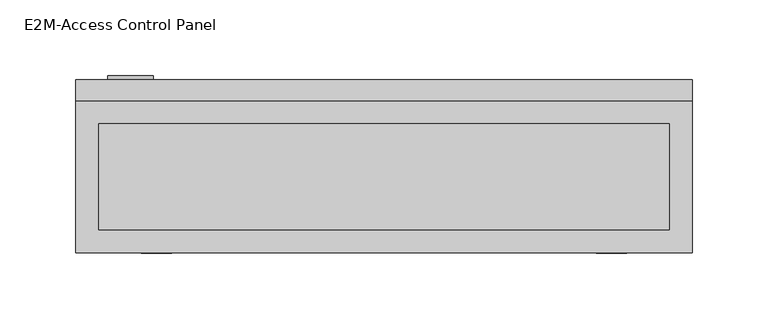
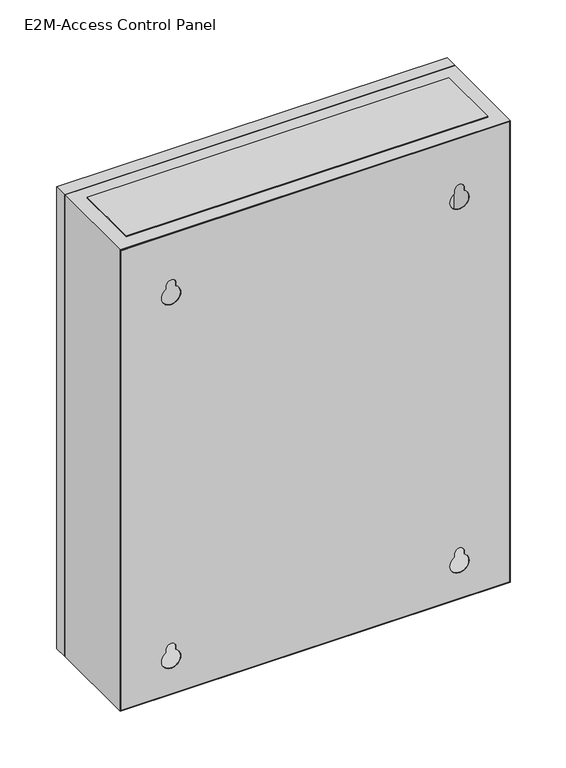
"""IFC4 building model written with IfcOpenShell, lengths in millimetres: proxy geometry, E2M_Access_Control_Panel_Wallmount_with_3inch_Strut_BIM_Model : E2M-Access Control Panel."""

from ifc_helpers import new_model, si_unit, point, frame, frame_2d, origin, place, context, project, spatial, polyline, circle_curve, trimmed, segment, composite_curve, outline, extrude, source, transform, mapped, element, save


def e2m_access_control_panel_7de66e6e(model_context):
    return source(origin(), model_context, "Body", "SweptSolid", [
        extrude(outline(polyline([(188.0, 411.2), (188.0, 341.2), (-188.0, 341.2), (-188.0, 411.2), (188.0, 411.2)])), frame((0.0, 0.0, 1090.267542), z_axis=(0.0, 0.0, 1.0), x_axis=(1.0, 0.0, 0.0)), (0.0, 0.0, 1.0), 1.0),
        extrude(outline(polyline([(188.0, 411.2), (188.0, 341.2), (-188.0, 341.2), (-188.0, 411.2), (188.0, 411.2)])), frame((0.0, 0.0, 1599.1733261), z_axis=(0.0, 0.0, 1.0), x_axis=(1.0, 0.0, 0.0)), (0.0, 0.0, 1.0), 1.0),
        extrude(outline(composite_curve([segment(trimmed(circle_curve(frame_2d((1432.2477718, -167.0)), 15.0), [point((1432.2477718, -182.0))], [point((1432.2477718, -152.0))], False, "CARTESIAN"), True, "CONTINUOUS"), segment(trimmed(circle_curve(frame_2d((1432.2477718, -167.0)), 15.0), [point((1432.2477718, -152.0))], [point((1432.2477718, -182.0))], False, "CARTESIAN"), True, "CONTINUOUS")], self_intersect=False), holes=[composite_curve([segment(trimmed(circle_curve(frame_2d((1432.2477718, -167.0)), 10.0), [point((1432.2477718, -177.0))], [point((1432.2477718, -157.0))], True, "CARTESIAN"), True, "CONTINUOUS"), segment(trimmed(circle_curve(frame_2d((1432.2477718, -167.0)), 10.0), [point((1432.2477718, -157.0))], [point((1432.2477718, -177.0))], True, "CARTESIAN"), True, "CONTINUOUS")], self_intersect=False)]), frame((0.0, 440.2, 0.0), z_axis=(0.0, 1.0, 0.0), x_axis=(0.0, 0.0, 1.0)), (0.0, 0.0, 1.0), 2.4582379),
        extrude(outline(composite_curve([segment(trimmed(circle_curve(frame_2d((1432.2477718, -167.0)), 5.0), [point((1432.2477718, -172.0))], [point((1432.2477718, -162.0))], False, "CARTESIAN"), True, "CONTINUOUS"), segment(trimmed(circle_curve(frame_2d((1432.2477718, -167.0)), 5.0), [point((1432.2477718, -162.0))], [point((1432.2477718, -172.0))], False, "CARTESIAN"), True, "CONTINUOUS")], self_intersect=False)), frame((0.0, 440.2, 0.0), z_axis=(0.0, 1.0, 0.0), x_axis=(0.0, 0.0, 1.0)), (0.0, 0.0, 1.0), 2.4582379),
        extrude(outline(polyline([(1598.1733261, -202.0), (1092.1733261, -202.0), (1092.1733261, 202.0), (1598.1733261, 202.0), (1598.1733261, -202.0)]), holes=[composite_curve([segment(trimmed(circle_curve(frame_2d((1542.628956, -150.0)), 5.0), [point((1542.628956, -155.0))], [point((1542.628956, -145.0))], True, "CARTESIAN"), True, "CONTINUOUS"), segment(polyline([(1542.628956, -145.0), (1539.3330615, -145.0)]), True, "CONTINUOUS"), segment(trimmed(circle_curve(frame_2d((1530.6728075, -150.0)), 10.0), [point((1539.3330615, -145.0))], [point((1539.3330615, -155.0))], True, "CARTESIAN"), True, "CONTINUOUS"), segment(polyline([(1539.3330615, -155.0), (1542.628956, -155.0)]), True, "CONTINUOUS")], self_intersect=False), composite_curve([segment(trimmed(circle_curve(frame_2d((1542.628956, 150.0)), 5.0), [point((1542.628956, 145.0))], [point((1542.628956, 155.0))], True, "CARTESIAN"), True, "CONTINUOUS"), segment(polyline([(1542.628956, 155.0), (1539.3330615, 155.0)]), True, "CONTINUOUS"), segment(trimmed(circle_curve(frame_2d((1530.6728075, 150.0)), 10.0), [point((1539.3330615, 155.0))], [point((1539.3330615, 145.0))], True, "CARTESIAN"), True, "CONTINUOUS"), segment(polyline([(1539.3330615, 145.0), (1542.628956, 145.0)]), True, "CONTINUOUS")], self_intersect=False), composite_curve([segment(trimmed(circle_curve(frame_2d((1142.628956, -150.0)), 5.0), [point((1142.628956, -155.0))], [point((1142.628956, -145.0))], True, "CARTESIAN"), True, "CONTINUOUS"), segment(polyline([(1142.628956, -145.0), (1139.3330615, -145.0)]), True, "CONTINUOUS"), segment(trimmed(circle_curve(frame_2d((1130.6728075, -150.0)), 10.0), [point((1139.3330615, -145.0))], [point((1139.3330615, -155.0))], True, "CARTESIAN"), True, "CONTINUOUS"), segment(polyline([(1139.3330615, -155.0), (1142.628956, -155.0)]), True, "CONTINUOUS")], self_intersect=False), composite_curve([segment(trimmed(circle_curve(frame_2d((1142.628956, 150.0)), 5.0), [point((1142.628956, 145.0))], [point((1142.628956, 155.0))], True, "CARTESIAN"), True, "CONTINUOUS"), segment(polyline([(1142.628956, 155.0), (1139.3330615, 155.0)]), True, "CONTINUOUS"), segment(trimmed(circle_curve(frame_2d((1130.6728075, 150.0)), 10.0), [point((1139.3330615, 155.0))], [point((1139.3330615, 145.0))], True, "CARTESIAN"), True, "CONTINUOUS"), segment(polyline([(1139.3330615, 145.0), (1142.628956, 145.0)]), True, "CONTINUOUS")], self_intersect=False)]), frame((0.0, 326.0, 0.0), z_axis=(0.0, 1.0, 0.0), x_axis=(0.0, 0.0, 1.0)), (0.0, 0.0, 1.0), 0.2),
        extrude(outline(polyline([(203.0, 426.2), (-203.0, 426.2), (-203.0, 440.2), (203.0, 440.2), (203.0, 426.2)])), frame((0.0, 0.0, 1091.1733261), z_axis=(0.0, 0.0, 1.0), x_axis=(1.0, 0.0, 0.0)), (0.0, 0.0, 1.0), 508.0),
        extrude(outline(polyline([(1599.1733261, -203.0), (1091.267542, -203.0), (1091.267542, 203.0), (1599.1733261, 203.0), (1599.1733261, -203.0)]), holes=[polyline([(1598.1733261, -202.0), (1598.1733261, 202.0), (1092.267542, 202.0), (1092.267542, -202.0), (1598.1733261, -202.0)])]), frame((0.0, 326.2, 0.0), z_axis=(0.0, 1.0, 0.0), x_axis=(0.0, 0.0, 1.0)), (0.0, 0.0, 1.0), 100.0),
    ])


if __name__ == "__main__":
    model = new_model("IFC4")
    model_context = context("Model", 3, world=origin())
    ifc_project = project(units=[si_unit("LENGTHUNIT", "METRE", prefix="MILLI")], contexts=[model_context])
    site = spatial("IfcSite", under=ifc_project)
    building = spatial("IfcBuilding", under=site)
    placement = place(None, origin())
    e2m_access_control_panel_shape = e2m_access_control_panel_7de66e6e(model_context)
    element("IfcBuildingElementProxy", 1, Name="E2M_Access_Control_Panel_Wallmount_with_3inch_Strut_BIM_Model : E2M-Access Control Panel", ObjectType="E2M_Access_Control_Panel_Wallmount_with_3inch_Strut_BIM_Model : E2M-Access Control Panel", at=placement, inside=building, context=model_context, shape_type="MappedRepresentation", body=[
        mapped(e2m_access_control_panel_shape, transform((0.0, 0.0, 0.0), x_axis=(1.0, 0.0, 0.0), y_axis=(0.0, 1.0, 0.0), z_axis=(0.0, 0.0, 1.0))),
    ])
    save(model, "model.ifc")
